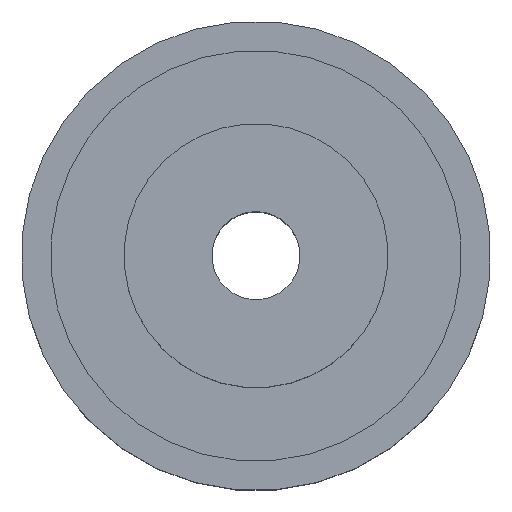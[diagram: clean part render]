
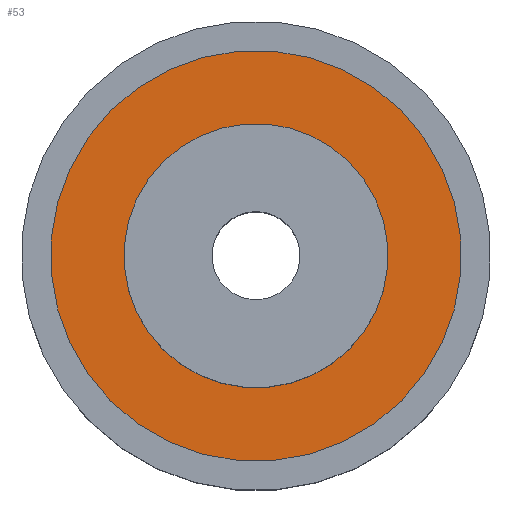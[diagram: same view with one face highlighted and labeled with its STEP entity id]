
A CAD part, top view. The second image highlights one B-rep face of the part: STEP entity #53.
In plain terms, the highlighted planar face has unit normal (0, 0, 1).
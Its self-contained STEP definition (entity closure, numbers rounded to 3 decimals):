
#39=FACE_BOUND('',#82,.F.);
#44=PLANE('',#318);
#53=ADVANCED_FACE('',(#39,#66),#44,.T.);
#66=FACE_OUTER_BOUND('',#83,.F.);
#82=EDGE_LOOP('',(#118,#119));
#83=EDGE_LOOP('',(#120,#121));
#118=ORIENTED_EDGE('',*,*,#240,.T.);
#119=ORIENTED_EDGE('',*,*,#239,.T.);
#120=ORIENTED_EDGE('',*,*,#229,.F.);
#121=ORIENTED_EDGE('',*,*,#232,.F.);
#229=EDGE_CURVE('',#290,#289,#255,.T.);
#232=EDGE_CURVE('',#289,#290,#258,.T.);
#239=EDGE_CURVE('',#282,#281,#263,.T.);
#240=EDGE_CURVE('',#281,#282,#264,.T.);
#255=CIRCLE('',#293,22.225);
#258=CIRCLE('',#296,22.225);
#263=CIRCLE('',#301,14.288);
#264=CIRCLE('',#302,14.288);
#281=VERTEX_POINT('',#408);
#282=VERTEX_POINT('',#409);
#289=VERTEX_POINT('',#416);
#290=VERTEX_POINT('',#417);
#293=AXIS2_PLACEMENT_3D('',#418,#327,#328);
#296=AXIS2_PLACEMENT_3D('',#421,#333,#334);
#301=AXIS2_PLACEMENT_3D('',#428,#345,#346);
#302=AXIS2_PLACEMENT_3D('',#429,#347,#348);
#318=AXIS2_PLACEMENT_3D('',#451,#385,#386);
#327=DIRECTION('',(0.,0.,1.));
#328=DIRECTION('',(-0.707,0.707,0.));
#333=DIRECTION('',(0.,0.,1.));
#334=DIRECTION('',(0.707,-0.707,0.));
#345=DIRECTION('',(0.,0.,1.));
#346=DIRECTION('',(-0.707,0.707,0.));
#347=DIRECTION('',(0.,0.,1.));
#348=DIRECTION('',(0.707,-0.707,0.));
#385=DIRECTION('',(0.,0.,1.));
#386=DIRECTION('',(0.707,0.707,0.));
#408=CARTESIAN_POINT('',(750.699,452.928,300.639));
#409=CARTESIAN_POINT('',(730.493,473.134,300.639));
#416=CARTESIAN_POINT('',(756.312,447.316,300.639));
#417=CARTESIAN_POINT('',(724.881,478.746,300.639));
#418=CARTESIAN_POINT('',(740.596,463.031,300.639));
#421=CARTESIAN_POINT('',(740.596,463.031,300.639));
#428=CARTESIAN_POINT('',(740.596,463.031,300.639));
#429=CARTESIAN_POINT('',(740.596,463.031,300.639));
#451=CARTESIAN_POINT('',(740.596,430.971,300.639));
